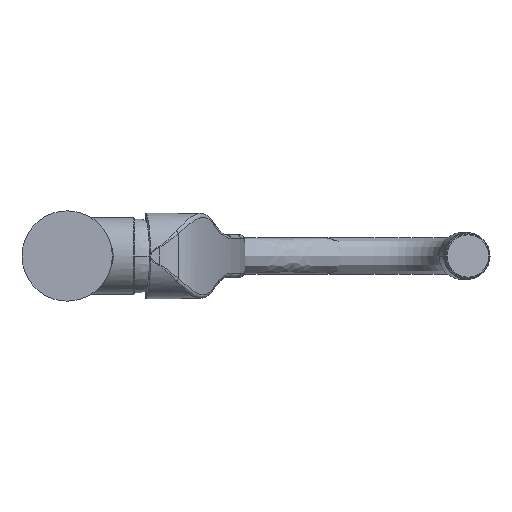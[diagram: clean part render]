
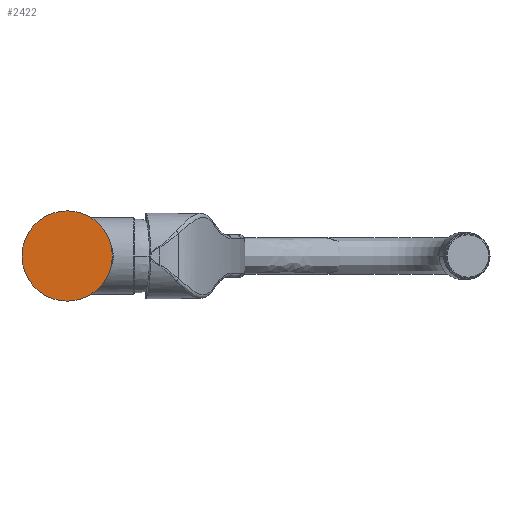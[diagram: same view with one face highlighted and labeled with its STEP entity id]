
A CAD part, front view. The second image highlights one B-rep face of the part: STEP entity #2422.
In plain terms, the highlighted planar face has unit normal (0, -1, 0).
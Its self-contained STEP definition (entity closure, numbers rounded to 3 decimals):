
#269 = DIRECTION ( 'NONE',  ( 0., -1., 0. ) ) ;
#374 = DIRECTION ( 'NONE',  ( 0., 0., -1. ) ) ;
#828 = CIRCLE ( 'NONE', #977, 23.305 ) ;
#977 = AXIS2_PLACEMENT_3D ( 'NONE', #7168, #269, #3079 ) ;
#1228 = CIRCLE ( 'NONE', #4699, 23.305 ) ;
#2198 = CARTESIAN_POINT ( 'NONE',  ( 0., -1.533, 23.305 ) ) ;
#2422 = ADVANCED_FACE ( 'NONE', ( #5079 ), #4454, .F. ) ;
#3043 = DIRECTION ( 'NONE',  ( 0., -1., 0. ) ) ;
#3079 = DIRECTION ( 'NONE',  ( 0., 0., -1. ) ) ;
#3217 = ORIENTED_EDGE ( 'NONE', *, *, #5002, .T. ) ;
#3666 = DIRECTION ( 'NONE',  ( 0., 0., 1. ) ) ;
#3767 = CARTESIAN_POINT ( 'NONE',  ( 0., -1.533, 0. ) ) ;
#4179 = ORIENTED_EDGE ( 'NONE', *, *, #6703, .T. ) ;
#4454 = PLANE ( 'NONE',  #5892 ) ;
#4699 = AXIS2_PLACEMENT_3D ( 'NONE', #7925, #3043, #374 ) ;
#5002 = EDGE_CURVE ( 'NONE', #8227, #5393, #1228, .T. ) ;
#5079 = FACE_OUTER_BOUND ( 'NONE', #5407, .T. ) ;
#5299 = CARTESIAN_POINT ( 'NONE',  ( 0., -1.533, -23.305 ) ) ;
#5393 = VERTEX_POINT ( 'NONE', #5299 ) ;
#5407 = EDGE_LOOP ( 'NONE', ( #4179, #3217 ) ) ;
#5892 = AXIS2_PLACEMENT_3D ( 'NONE', #3767, #8507, #3666 ) ;
#6703 = EDGE_CURVE ( 'NONE', #5393, #8227, #828, .T. ) ;
#7168 = CARTESIAN_POINT ( 'NONE',  ( 0., -1.533, 0. ) ) ;
#7925 = CARTESIAN_POINT ( 'NONE',  ( 0., -1.533, 0. ) ) ;
#8227 = VERTEX_POINT ( 'NONE', #2198 ) ;
#8507 = DIRECTION ( 'NONE',  ( 0., 1., 0. ) ) ;
